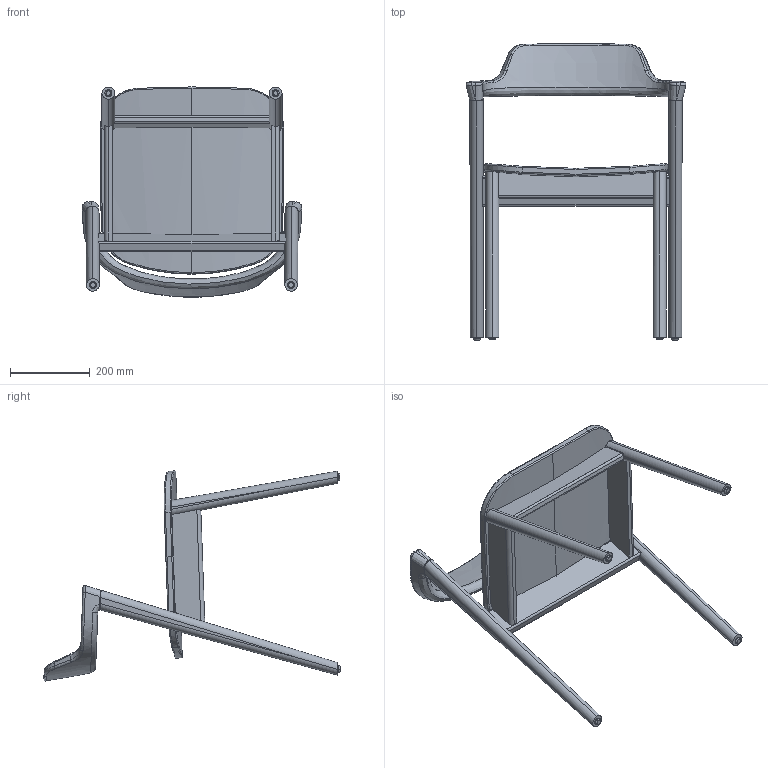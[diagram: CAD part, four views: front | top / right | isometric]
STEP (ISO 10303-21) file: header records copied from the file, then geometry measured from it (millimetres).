
FILE_DESCRIPTION (( 'STEP AP214' ), '1' );
FILE_NAME ('HIVEショートアームチェアー板CG.STEP', '2026-03-25T08:28:11', ( '' ), ( '' ), 'SwSTEP 2.0', 'SolidWorks 2025', '' );
FILE_SCHEMA (( 'AUTOMOTIVE_DESIGN' ));
Length unit declared in the file: millimetre
Products named in the file (1): HIVEショートアームチェアー板CG
Bounding box: 552.31 x 744.04 x 527.8 mm (x, y, z)
Volume: 9268012.3 mm3; surface area: 1098011 mm2
Topology: 14 solids, 14 shells, 284 faces, 676 edges, 420 vertices
Faces by surface type: cylinder 109, plane 83, bspline 76, cone 8, torus 8
Entity records: 16269 total; most frequent: CARTESIAN_POINT 10349, ORIENTED_EDGE 1344, DIRECTION 1011, EDGE_CURVE 672, VERTEX_POINT 420, AXIS2_PLACEMENT_3D 388, EDGE_LOOP 288, ADVANCED_FACE 284
